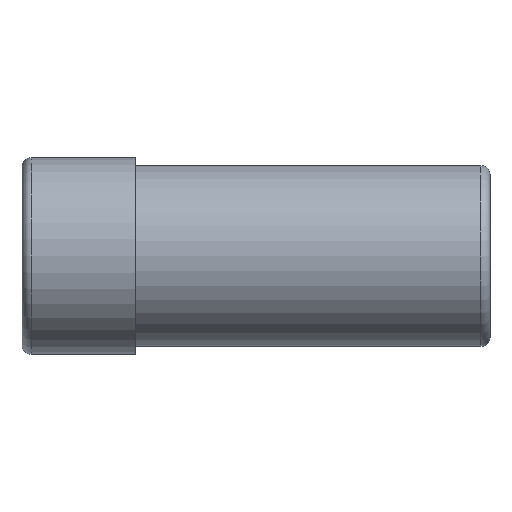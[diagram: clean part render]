
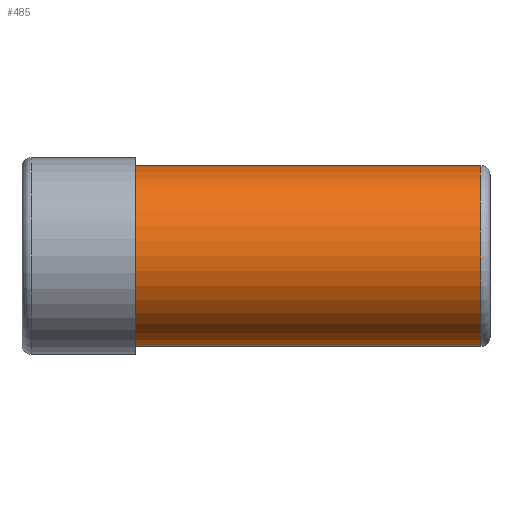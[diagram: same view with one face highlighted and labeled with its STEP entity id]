
A CAD part, front view. The second image highlights one B-rep face of the part: STEP entity #485.
In plain terms, the highlighted cylindrical face has radius 30 mm (diameter 60 mm), a partial arc.
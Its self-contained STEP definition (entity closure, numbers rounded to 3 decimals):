
#96=CARTESIAN_POINT('',(152.,0.,0.));
#97=DIRECTION('',(1.,0.,0.));
#98=DIRECTION('',(0.,-0.033,0.999));
#99=AXIS2_PLACEMENT_3D('',#96,#97,#98);
#111=DIRECTION('',(1.,0.,0.));
#112=VECTOR('',#111,114.5);
#113=CARTESIAN_POINT('',(37.5,-1.,-29.983));
#114=LINE('',#113,#112);
#115=DIRECTION('',(-1.,0.,0.));
#116=VECTOR('',#115,114.5);
#117=CARTESIAN_POINT('',(152.,-1.,29.983));
#118=LINE('',#117,#116);
#124=CARTESIAN_POINT('',(37.5,0.,0.));
#125=DIRECTION('',(-1.,0.,0.));
#126=DIRECTION('',(0.,-0.033,-0.999));
#127=AXIS2_PLACEMENT_3D('',#124,#125,#126);
#282=CARTESIAN_POINT('',(37.5,-1.,-29.983));
#283=CARTESIAN_POINT('',(152.,-1.,
-29.983));
#284=VERTEX_POINT('',#282);
#285=VERTEX_POINT('',#283);
#325=CARTESIAN_POINT('',(152.,-1.,29.983));
#326=CARTESIAN_POINT('',(37.5,-1.,29.983));
#327=VERTEX_POINT('',#325);
#328=VERTEX_POINT('',#326);
#473=CARTESIAN_POINT('',(0.,0.,0.));
#474=DIRECTION('',(-1.,0.,0.));
#475=DIRECTION('',(0.,0.,1.));
#476=AXIS2_PLACEMENT_3D('',#473,#474,#475);
#477=CYLINDRICAL_SURFACE('',#476,30.);
#478=ORIENTED_EDGE('',*,*,#380,.F.);
#480=ORIENTED_EDGE('',*,*,#479,.T.);
#481=ORIENTED_EDGE('',*,*,#415,.F.);
#482=ORIENTED_EDGE('',*,*,#466,.T.);
#483=EDGE_LOOP('',(#478,#480,#481,#482));
#484=FACE_OUTER_BOUND('',#483,.F.);
#485=ADVANCED_FACE('',(#484),#477,.T.);
#100=CIRCLE('',#99,30.);
#128=CIRCLE('',#127,30.);
#380=EDGE_CURVE('',#284,#285,#114,.T.);
#415=EDGE_CURVE('',#327,#328,#118,.T.);
#466=EDGE_CURVE('',#327,#285,#100,.T.);
#479=EDGE_CURVE('',#284,#328,#128,.T.);
